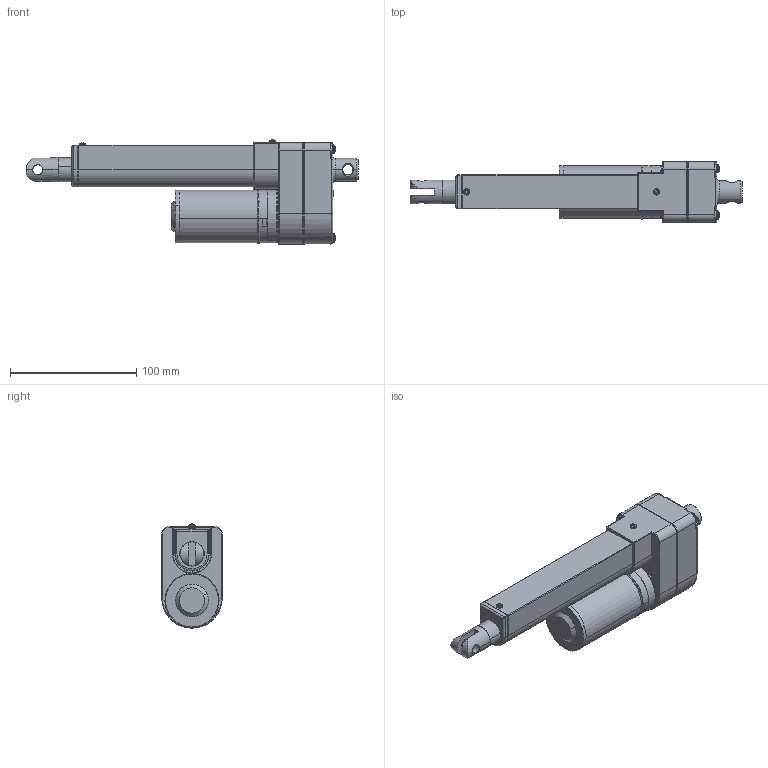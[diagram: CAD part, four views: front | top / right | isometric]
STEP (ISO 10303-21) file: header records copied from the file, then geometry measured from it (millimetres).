
FILE_DESCRIPTION (( 'STEP AP203' ), '1' );
FILE_NAME ('LAS2組合圖_Stroke=100.STEP', '2011-05-16T07:56:25', ( 'MH0164' ), ( '' ), 'SwSTEP 2.0', 'SolidWorks 2009', '' );
FILE_SCHEMA (( 'CONFIG_CONTROL_DESIGN' ));
Length unit declared in the file: millimetre
Products named in the file (1): LAS2組合圖_Stroke=100
Bounding box: 263.4 x 48 x 82.79 mm (x, y, z)
Surface area: 73936.9 mm2 (no closed solid volume)
Topology: 0 solids, 30 shells, 399 faces, 1488 edges, 1069 vertices
Faces by surface type: plane 164, cylinder 98, torus 69, bspline 47, cone 13, sphere 8
Entity records: 19793 total; most frequent: CARTESIAN_POINT 7795, DIRECTION 2340, ORIENTED_EDGE 2295, EDGE_CURVE 1470, VERTEX_POINT 1067, AXIS2_PLACEMENT_3D 808, LINE 724, VECTOR 724
